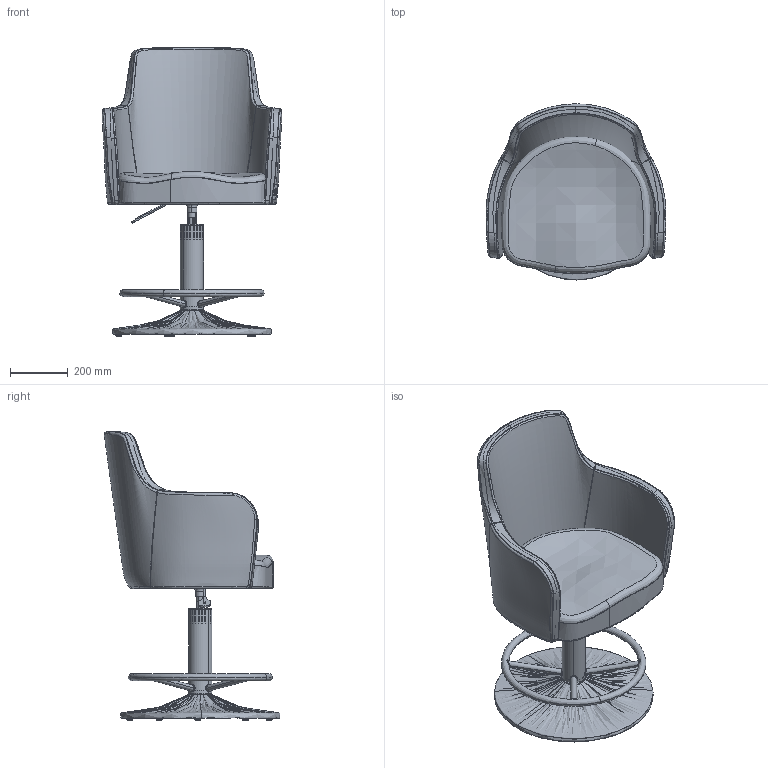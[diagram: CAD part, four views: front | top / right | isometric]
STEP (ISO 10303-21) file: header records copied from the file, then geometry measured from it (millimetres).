
FILE_DESCRIPTION(/* description */ (''),/* implementation_level */ '2;1');
FILE_NAME(/* name */ 'COLOMBO',/* time_stamp */ '2025-09-17T14:27:38+02:00',/* author */ (''),/* organization */ (''),/* preprocessor_version */ 'ST-DEVELOPER v19.2',/* originating_system */ 'Rhino 8.23',/* authorisation */ '');
FILE_SCHEMA (('CONFIG_CONTROL_DESIGN'));
Products named in the file (1): Document
Bounding box: 622.38 x 607.61 x 998.33 mm (x, y, z)
Volume: 29076687.9 mm3; surface area: 5001718.7 mm2
Topology: 36 solids, 59 shells, 2931 faces, 8141 edges, 5325 vertices
Faces by surface type: plane 2100, bspline 617, cylinder 214
Entity records: 362283 total; most frequent: CARTESIAN_POINT 306862, ORIENTED_EDGE 16021, EDGE_CURVE 8143, B_SPLINE_CURVE_WITH_KNOTS 6800, VERTEX_POINT 5325, DIRECTION 3366, EDGE_LOOP 3036, ADVANCED_FACE 2931
